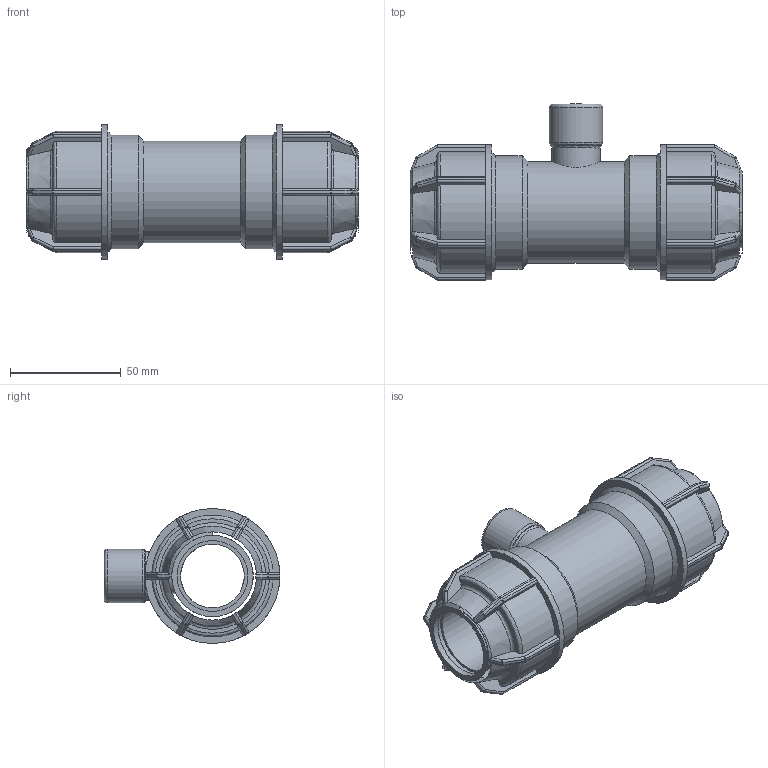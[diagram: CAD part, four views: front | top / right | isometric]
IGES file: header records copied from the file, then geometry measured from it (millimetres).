
Global section: file name: 141400032005.ipt; native system: Autodesk Inventor 2015; preprocessor: unknown; author: KIM; date: 20180416.111606; units: millimetre
Bounding box: 150 x 79.5 x 61 mm (x, y, z)
Volume: 186390.1 mm3; surface area: 49843.3 mm2
Topology: 1 solids, 1 shells, 412 faces, 1000 edges, 585 vertices
Faces by surface type: plane 194, cylinder 115, sphere 48, revolution 38, cone 17
Full cylindrical faces by diameter (mm): 21.798 x1, 24.22 x1, 46.08 x1, 51.2 x2, 61 x2
